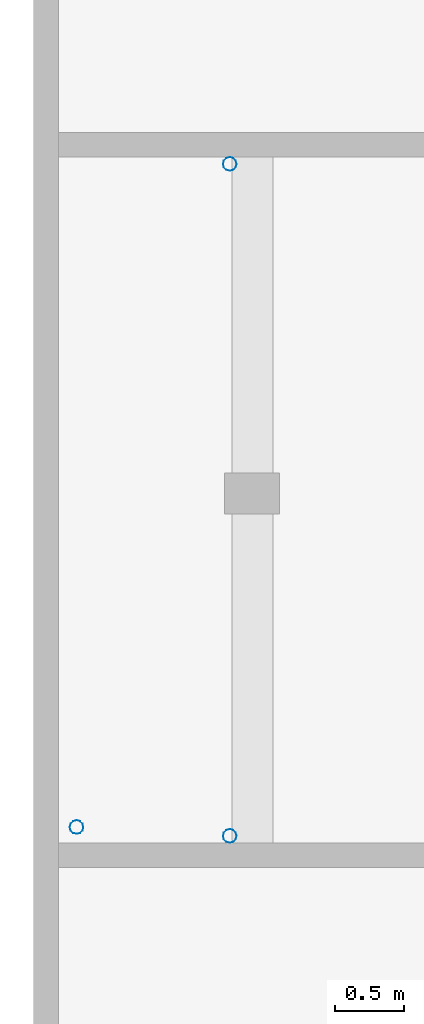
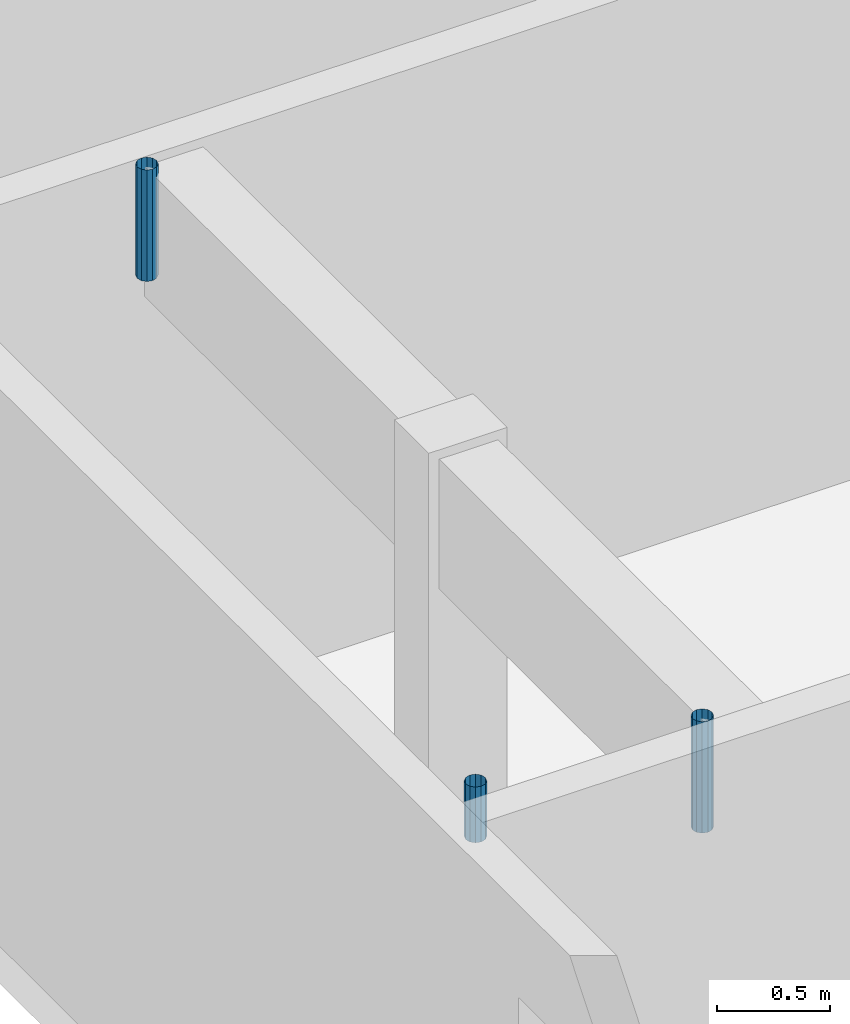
# One storey, part 23 of 41: 3 discrete accessories.
"""IFC2X3 building model written with IfcOpenShell, lengths in millimetres."""

from ifc_helpers import new_model, entity, si_unit, converted_unit, derived_unit, money_unit, direction, frame, origin_with_axes, place, context, subcontext, project, spatial, open_shell, surface_model, source, transform, mapped, type_object, element, save


model = new_model("IFC2X3")

# Units and contexts
model_context = context("Model", 3, precision=0.01, world=origin_with_axes(), true_north=direction((0.0, 1.0)))
body_context = subcontext(model_context, "Body", "Model", "MODEL_VIEW")
ifc_project = project(units=[si_unit("LENGTHUNIT", "METRE", prefix="MILLI"), si_unit("AREAUNIT", "SQUARE_METRE"), si_unit("VOLUMEUNIT", "CUBIC_METRE"), converted_unit("PLANEANGLEUNIT", "DEGREE", entity("IfcPlaneAngleMeasure", 0.0174532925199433), si_unit("PLANEANGLEUNIT", "RADIAN"), dimensions=[0, 0, 0, 0, 0, 0, 0]), money_unit("USD"), converted_unit("TIMEUNIT", "Year", entity("IfcTimeMeasure", 31557600.0), si_unit("TIMEUNIT", "SECOND"), dimensions=[0, 0, 1, 0, 0, 0, 0]), si_unit("MASSUNIT", "GRAM", prefix="KILO"), si_unit("THERMODYNAMICTEMPERATUREUNIT", "DEGREE_CELSIUS"), si_unit("LUMINOUSINTENSITYUNIT", "LUMEN"), si_unit("ENERGYUNIT", "JOULE", prefix="MEGA"), derived_unit("THERMALCONDUCTANCEUNIT", [(si_unit("POWERUNIT", "WATT"), 1), (si_unit("LENGTHUNIT", "METRE"), -1), (si_unit("THERMODYNAMICTEMPERATUREUNIT", "KELVIN"), -1)]), derived_unit("SPECIFICHEATCAPACITYUNIT", [(si_unit("ENERGYUNIT", "JOULE"), 1), (si_unit("MASSUNIT", "GRAM", prefix="KILO"), -1), (si_unit("THERMODYNAMICTEMPERATUREUNIT", "KELVIN"), -1)]), derived_unit("MASSDENSITYUNIT", [(si_unit("MASSUNIT", "GRAM", prefix="KILO"), 1), (si_unit("VOLUMEUNIT", "CUBIC_METRE"), -1)])], contexts=[model_context])

# Site, building, storey
site_placement = place(None, origin_with_axes())
site = spatial("IfcSite", under=ifc_project, at=site_placement, Name="Site", CompositionType="ELEMENT")
building_placement = place(site_placement, origin_with_axes())
building = spatial("IfcBuilding", under=site, at=building_placement, Name="Bâtiment", CompositionType="ELEMENT")
storey_placement = place(building_placement, origin_with_axes())
storey = spatial("IfcBuildingStorey", under=building, at=storey_placement, Name="sousol", CompositionType="ELEMENT", Elevation=0.0)

# Discrete accessories
discrete_accessory_type = type_object("IfcDiscreteAccessoryType", Name="Tuyau descente 27")
shared_shape_1 = source(origin_with_axes(), body_context, "Body", "SurfaceModel", [
    surface_model("IfcShellBasedSurfaceModel", [(-50.0, 0.0, 300.0), (-50.0, 0.0, 0.0), (-43.30127018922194, -25.0, 0.0), (-43.30127018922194, -25.0, 300.0), (-43.30127018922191, 25.00000000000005, 300.0), (-43.30127018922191, 25.00000000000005, 0.0), (-25.00000000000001, -43.30127018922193, 0.0), (-25.00000000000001, -43.30127018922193, 300.0), (-24.99999999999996, 43.30127018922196, 300.0), (-24.99999999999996, 43.30127018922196, 0.0), (0.0, -50.0, 0.0), (0.0, -50.0, 300.0), (0.0, 50.0, 300.0), (0.0, 50.0, 0.0), (24.99999999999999, -43.30127018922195, 0.0), (24.99999999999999, -43.30127018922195, 300.0), (25.00000000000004, 43.30127018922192, 300.0), (25.00000000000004, 43.30127018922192, 0.0), (43.30127018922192, -25.00000000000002, 0.0), (43.30127018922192, -25.00000000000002, 300.0), (43.30127018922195, 24.99999999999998, 300.0), (43.30127018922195, 24.99999999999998, 0.0), (50.0, 0.0, 0.0), (50.0, 0.0, 300.0)], [open_shell([[[0, 1, 2, 3]], [[4, 5, 1, 0]], [[3, 2, 6, 7]], [[8, 9, 5, 4]], [[7, 6, 10, 11]], [[12, 13, 9, 8]], [[11, 10, 14, 15]], [[16, 17, 13, 12]], [[15, 14, 18, 19]], [[20, 21, 17, 16]], [[19, 18, 22, 23]], [[23, 22, 21, 20]]])]),
])
discrete_accessory_placement = place(storey_placement, frame((2216947.023107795, -643901.7367942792, 2700.0), z_axis=(0.0, 0.0, 1.0), x_axis=(-1.0, 0.0, 0.0)))
element("IfcDiscreteAccessory", 1, at=discrete_accessory_placement, inside=storey, type_object=discrete_accessory_type, Name="Obj.-318", context=body_context, shape_type="MappedRepresentation", body=[
    mapped(shared_shape_1, transform((0.0, 0.0, 0.0))),
])
shared_shape_2 = source(origin_with_axes(), body_context, "Body", "SurfaceModel", [
    surface_model("IfcShellBasedSurfaceModel", [(50.0, 0.0, 600.0), (43.30127018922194, -25.0, 600.0), (43.30127018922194, -25.0, 0.0), (50.0, 0.0, 0.0), (25.00000000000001, -43.30127018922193, 600.0), (25.00000000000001, -43.30127018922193, 0.0), (43.30127018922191, 25.00000000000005, 600.0), (43.30127018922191, 25.00000000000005, 0.0), (0.0, -50.0, 600.0), (0.0, -50.0, 0.0), (24.99999999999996, 43.30127018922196, 600.0), (24.99999999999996, 43.30127018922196, 0.0), (-24.99999999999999, -43.30127018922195, 600.0), (-24.99999999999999, -43.30127018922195, 0.0), (0.0, 50.0, 600.0), (0.0, 50.0, 0.0), (-43.30127018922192, -25.00000000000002, 600.0), (-43.30127018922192, -25.00000000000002, 0.0), (-25.00000000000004, 43.30127018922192, 600.0), (-25.00000000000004, 43.30127018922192, 0.0), (-50.0, 0.0, 600.0), (-50.0, 0.0, 0.0), (-43.30127018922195, 24.99999999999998, 600.0), (-43.30127018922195, 24.99999999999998, 0.0)], [open_shell([[[0, 1, 2, 3]], [[1, 4, 5, 2]], [[6, 0, 3, 7]], [[4, 8, 9, 5]], [[10, 6, 7, 11]], [[8, 12, 13, 9]], [[14, 10, 11, 15]], [[12, 16, 17, 13]], [[18, 14, 15, 19]], [[16, 20, 21, 17]], [[22, 18, 19, 23]], [[20, 22, 23, 21]]])]),
])
for number, where, z_axis, x_axis, name in (
    (2, (2218064.406529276, -643966.3765042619, 2400.0), (0.0, 0.0, 1.0), (1.0, 0.0, 0.0), "Obj.-318"),
    (3, (2218064.406529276, -639066.8076992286, 2400.0), (0.0, 0.0, 1.0), (1.0, 0.0, 0.0), "Obj.-318"),
):
    element("IfcDiscreteAccessory", number, at=place(storey_placement, frame(where, z_axis=z_axis, x_axis=x_axis)), inside=storey, type_object=discrete_accessory_type, Name=name, context=body_context, shape_type="MappedRepresentation", body=[
        mapped(shared_shape_2, transform((0.0, 0.0, 0.0))),
    ])

save(model, "model.ifc")
